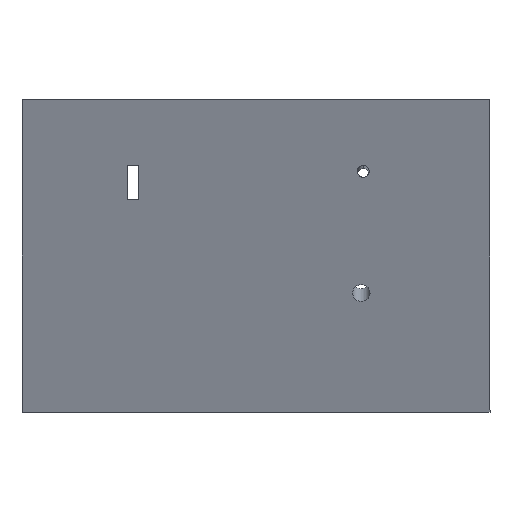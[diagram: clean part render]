
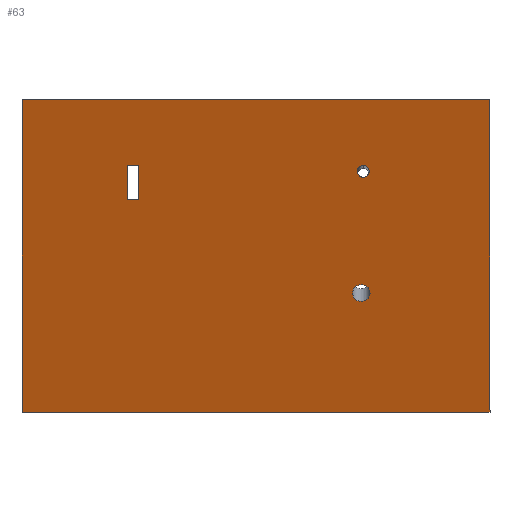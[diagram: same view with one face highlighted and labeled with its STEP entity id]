
A CAD part, left-side view. The second image highlights one B-rep face of the part: STEP entity #63.
In plain terms, the highlighted planar face has unit normal (-0.946, 0, -0.326).
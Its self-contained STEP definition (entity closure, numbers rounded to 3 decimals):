
#63=ADVANCED_FACE('',(#94,#95,#96,#97),#98,.T.);
#94=FACE_BOUND('',#129,.T.);
#95=FACE_BOUND('',#130,.T.);
#96=FACE_OUTER_BOUND('',#131,.T.);
#97=FACE_BOUND('',#132,.T.);
#98=PLANE('',#133);
#129=EDGE_LOOP('',(#229,#230,#231,#232));
#130=EDGE_LOOP('',(#233,#234));
#131=EDGE_LOOP('',(#235,#236,#237,#238));
#132=EDGE_LOOP('',(#239,#240));
#133=AXIS2_PLACEMENT_3D('',#241,#242,#243);
#229=ORIENTED_EDGE('',*,*,#268,.T.);
#230=ORIENTED_EDGE('',*,*,#265,.T.);
#231=ORIENTED_EDGE('',*,*,#262,.T.);
#232=ORIENTED_EDGE('',*,*,#271,.T.);
#233=ORIENTED_EDGE('',*,*,#259,.T.);
#234=ORIENTED_EDGE('',*,*,#272,.T.);
#235=ORIENTED_EDGE('',*,*,#275,.T.);
#236=ORIENTED_EDGE('',*,*,#287,.F.);
#237=ORIENTED_EDGE('',*,*,#285,.T.);
#238=ORIENTED_EDGE('',*,*,#278,.T.);
#239=ORIENTED_EDGE('',*,*,#253,.T.);
#240=ORIENTED_EDGE('',*,*,#282,.T.);
#241=CARTESIAN_POINT('',(206.,-60.,9.5));
#242=DIRECTION('',(-0.946,0.,-0.326));
#243=DIRECTION('',(0.,-1.0,0.));
#253=EDGE_CURVE('',#291,#288,#292,.T.);
#259=EDGE_CURVE('',#297,#301,#303,.T.);
#262=EDGE_CURVE('',#309,#307,#310,.T.);
#265=EDGE_CURVE('',#314,#309,#315,.T.);
#268=EDGE_CURVE('',#319,#314,#320,.T.);
#271=EDGE_CURVE('',#307,#319,#323,.T.);
#272=EDGE_CURVE('',#301,#297,#324,.T.);
#275=EDGE_CURVE('',#329,#326,#330,.T.);
#278=EDGE_CURVE('',#334,#329,#335,.T.);
#282=EDGE_CURVE('',#288,#291,#340,.T.);
#285=EDGE_CURVE('',#344,#334,#345,.T.);
#287=EDGE_CURVE('',#344,#326,#347,.T.);
#288=VERTEX_POINT('',#348);
#291=VERTEX_POINT('',#352);
#292=ELLIPSE('',#353,1.632,1.5);
#297=VERTEX_POINT('',#359);
#301=VERTEX_POINT('',#364);
#303=CIRCLE('',#367,2.25);
#307=VERTEX_POINT('',#372);
#309=VERTEX_POINT('',#375);
#310=LINE('',#376,#377);
#314=VERTEX_POINT('',#383);
#315=LINE('',#384,#385);
#319=VERTEX_POINT('',#391);
#320=LINE('',#392,#393);
#323=LINE('',#398,#399);
#324=CIRCLE('',#400,2.25);
#326=VERTEX_POINT('',#402);
#329=VERTEX_POINT('',#406);
#330=LINE('',#407,#408);
#334=VERTEX_POINT('',#414);
#335=LINE('',#415,#416);
#340=ELLIPSE('',#423,1.632,1.5);
#344=VERTEX_POINT('',#429);
#345=LINE('',#430,#431);
#347=LINE('',#434,#435);
#348=CARTESIAN_POINT('',(212.864,-27.5,-10.434));
#352=CARTESIAN_POINT('',(211.801,-27.5,-7.347));
#353=AXIS2_PLACEMENT_3D('',#437,#438,#439);
#359=CARTESIAN_POINT('',(223.092,-29.25,-40.14));
#364=CARTESIAN_POINT('',(223.092,-24.75,-40.14));
#367=AXIS2_PLACEMENT_3D('',#449,#450,#451);
#372=CARTESIAN_POINT('',(211.86,30.,-7.519));
#375=CARTESIAN_POINT('',(211.86,33.,-7.519));
#376=CARTESIAN_POINT('',(211.86,-15.,-7.519));
#377=VECTOR('',#454,1.0);
#383=CARTESIAN_POINT('',(214.79,33.,-16.029));
#384=CARTESIAN_POINT('',(210.64,33.,-3.974));
#385=VECTOR('',#457,1.0);
#391=CARTESIAN_POINT('',(214.79,30.,-16.029));
#392=CARTESIAN_POINT('',(214.79,-13.5,-16.029));
#393=VECTOR('',#460,1.0);
#398=CARTESIAN_POINT('',(210.64,30.,-3.974));
#399=VECTOR('',#463,1.0);
#400=AXIS2_PLACEMENT_3D('',#464,#465,#466);
#402=CARTESIAN_POINT('',(233.628,-60.,-70.737));
#406=CARTESIAN_POINT('',(233.628,60.,-70.737));
#407=CARTESIAN_POINT('',(233.628,0.,-70.737));
#408=VECTOR('',#471,1.0);
#414=CARTESIAN_POINT('',(206.,60.,9.5));
#415=CARTESIAN_POINT('',(206.,60.,9.5));
#416=VECTOR('',#474,1.0);
#423=AXIS2_PLACEMENT_3D('',#480,#481,#482);
#429=CARTESIAN_POINT('',(206.,-60.,9.5));
#430=CARTESIAN_POINT('',(206.,-60.,9.5));
#431=VECTOR('',#485,0.917);
#434=CARTESIAN_POINT('',(206.,-60.,9.5));
#435=VECTOR('',#487,1.0);
#437=CARTESIAN_POINT('',(212.332,-27.5,-8.89));
#438=DIRECTION('',(0.946,0.,0.326));
#439=DIRECTION('',(0.326,0.,-0.946));
#449=CARTESIAN_POINT('',(223.092,-27.0,-40.14));
#450=DIRECTION('',(0.946,0.,0.326));
#451=DIRECTION('',(0.,-1.0,0.));
#454=DIRECTION('',(0.,-1.0,0.));
#457=DIRECTION('',(-0.326,0.,0.946));
#460=DIRECTION('',(0.,1.0,0.));
#463=DIRECTION('',(0.326,0.,-0.946));
#464=CARTESIAN_POINT('',(223.092,-27.0,-40.14));
#465=DIRECTION('',(0.946,0.,0.326));
#466=DIRECTION('',(0.,-1.0,0.));
#471=DIRECTION('',(0.,-1.0,0.));
#474=DIRECTION('',(0.326,0.,-0.946));
#480=CARTESIAN_POINT('',(212.332,-27.5,-8.89));
#481=DIRECTION('',(0.946,0.,0.326));
#482=DIRECTION('',(0.326,0.,-0.946));
#485=DIRECTION('',(0.,1.0,0.));
#487=DIRECTION('',(0.326,0.,-0.946));
